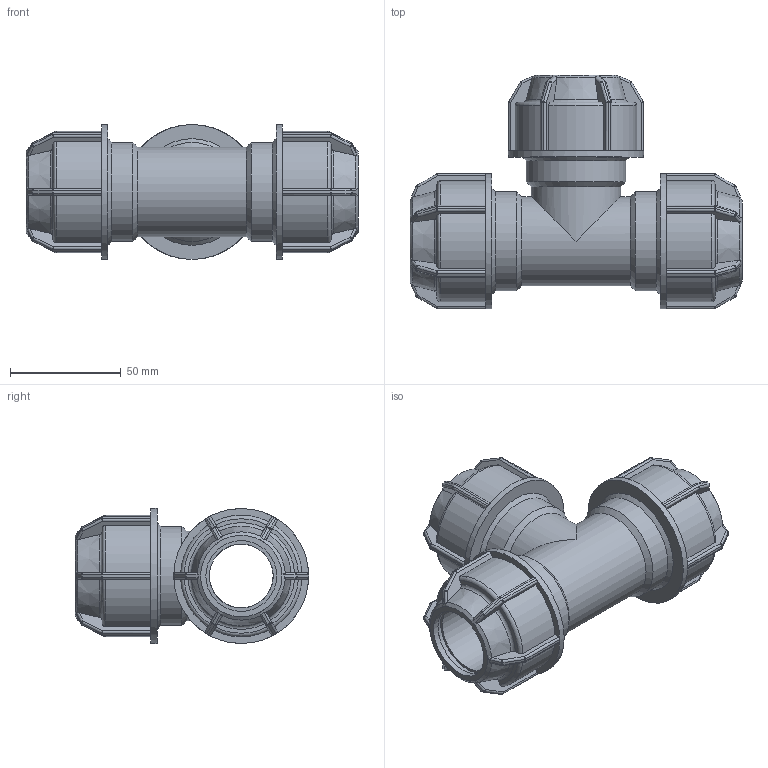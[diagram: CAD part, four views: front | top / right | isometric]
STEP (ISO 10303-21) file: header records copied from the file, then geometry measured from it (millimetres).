
FILE_DESCRIPTION(/* description */ ('PLASSON L.14 TEE (SILVER) 32-32-32'),/* implementation_level */ '2;1');
FILE_NAME(/* name */ 'C:\Dropbox\KIMPROJECTS-Inventor\99-16-3568-Processing\Silver+MF ISRAEL\140400\140400032.ipt.stp',/* time_stamp */ '2018-04-09T13:03:39+03:00',/* author */ ('KIM'),/* organization */ (''),/* preprocessor_version */ 'ST-DEVELOPER v15.6',/* originating_system */ 'Autodesk Inventor 2015',/* authorisation */ '');
FILE_SCHEMA (('AUTOMOTIVE_DESIGN { 1 0 10303 214 3 1 1 }'));
Length unit declared in the file: millimetre
Products named in the file (1): 140400032
Bounding box: 150 x 105.5 x 61 mm (x, y, z)
Volume: 209788.2 mm3; surface area: 63584.9 mm2
Topology: 1 solids, 1 shells, 607 faces, 1456 edges, 840 vertices
Faces by surface type: plane 288, cylinder 178, sphere 72, torus 42, cone 27
Full cylindrical faces by diameter (mm): 28.8 x2, 32 x6, 40.32 x2, 44.8 x3, 61 x3
Entity records: 17636 total; most frequent: CARTESIAN_POINT 4528, DIRECTION 2760, ORIENTED_EDGE 2708, EDGE_CURVE 1354, AXIS2_PLACEMENT_3D 1110, VERTEX_POINT 796, EDGE_LOOP 646, FACE_OUTER_BOUND 601
